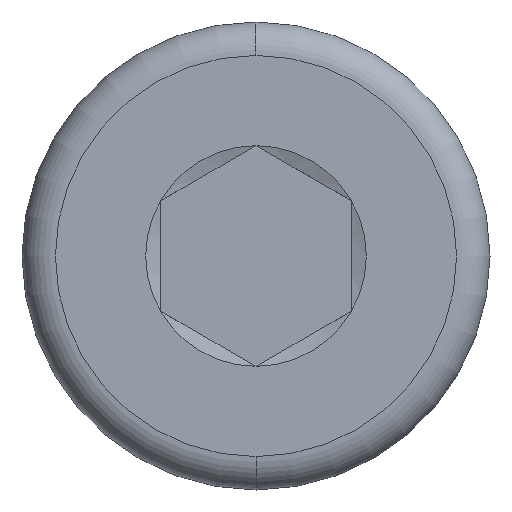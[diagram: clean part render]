
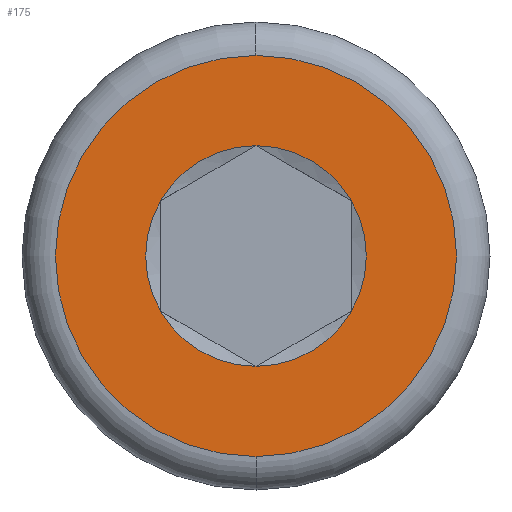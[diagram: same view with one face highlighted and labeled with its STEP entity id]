
A CAD part, left-side view. The second image highlights one B-rep face of the part: STEP entity #175.
In plain terms, the highlighted planar face has unit normal (-1, 0, 0).
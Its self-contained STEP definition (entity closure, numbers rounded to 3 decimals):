
#8 = CIRCLE ( 'NONE', #564, 4.2 ) ;
#41 = VERTEX_POINT ( 'NONE', #344 ) ;
#54 = DIRECTION ( 'NONE',  ( 1., 0., 0. ) ) ;
#57 = DIRECTION ( 'NONE',  ( 0., 0., -1. ) ) ;
#64 = EDGE_LOOP ( 'NONE', ( #447, #118, #153, #398, #265, #668 ) ) ;
#69 = AXIS2_PLACEMENT_3D ( 'NONE', #490, #278, #397 ) ;
#88 = CARTESIAN_POINT ( 'NONE',  ( 0., 0., 2.309 ) ) ;
#95 = AXIS2_PLACEMENT_3D ( 'NONE', #425, #577, #57 ) ;
#99 = CIRCLE ( 'NONE', #187, 2.309 ) ;
#100 = DIRECTION ( 'NONE',  ( 1., 0., 0. ) ) ;
#106 = CARTESIAN_POINT ( 'NONE',  ( 0., -2., -1.155 ) ) ;
#116 = DIRECTION ( 'NONE',  ( 0., 0., -1. ) ) ;
#118 = ORIENTED_EDGE ( 'NONE', *, *, #260, .T. ) ;
#120 = EDGE_CURVE ( 'NONE', #356, #518, #575, .T. ) ;
#121 = AXIS2_PLACEMENT_3D ( 'NONE', #125, #288, #116 ) ;
#125 = CARTESIAN_POINT ( 'NONE',  ( 0., 0., 0. ) ) ;
#148 = AXIS2_PLACEMENT_3D ( 'NONE', #441, #334, #543 ) ;
#153 = ORIENTED_EDGE ( 'NONE', *, *, #388, .T. ) ;
#156 = CIRCLE ( 'NONE', #148, 2.309 ) ;
#159 = EDGE_CURVE ( 'NONE', #391, #572, #358, .T. ) ;
#165 = AXIS2_PLACEMENT_3D ( 'NONE', #272, #338, #588 ) ;
#166 = CIRCLE ( 'NONE', #121, 2.309 ) ;
#169 = CARTESIAN_POINT ( 'NONE',  ( 0., 2., -1.155 ) ) ;
#175 = ADVANCED_FACE ( 'NONE', ( #285, #604 ), #436, .T. ) ;
#187 = AXIS2_PLACEMENT_3D ( 'NONE', #635, #257, #215 ) ;
#215 = DIRECTION ( 'NONE',  ( 0., 0., -1. ) ) ;
#242 = EDGE_CURVE ( 'NONE', #442, #391, #409, .T. ) ;
#248 = VERTEX_POINT ( 'NONE', #591 ) ;
#257 = DIRECTION ( 'NONE',  ( 1., 0., 0. ) ) ;
#260 = EDGE_CURVE ( 'NONE', #518, #287, #156, .T. ) ;
#265 = ORIENTED_EDGE ( 'NONE', *, *, #159, .T. ) ;
#272 = CARTESIAN_POINT ( 'NONE',  ( 0., 0., 0. ) ) ;
#278 = DIRECTION ( 'NONE',  ( -1., 0., 0. ) ) ;
#285 = FACE_BOUND ( 'NONE', #64, .T. ) ;
#287 = VERTEX_POINT ( 'NONE', #478 ) ;
#288 = DIRECTION ( 'NONE',  ( 1., 0., 0. ) ) ;
#307 = CARTESIAN_POINT ( 'NONE',  ( 0., 0., 0. ) ) ;
#334 = DIRECTION ( 'NONE',  ( 1., 0., 0. ) ) ;
#338 = DIRECTION ( 'NONE',  ( 1., 0., 0. ) ) ;
#344 = CARTESIAN_POINT ( 'NONE',  ( 0., 0., 4.2 ) ) ;
#356 = VERTEX_POINT ( 'NONE', #621 ) ;
#358 = CIRCLE ( 'NONE', #552, 2.309 ) ;
#360 = DIRECTION ( 'NONE',  ( 0., 0., -1. ) ) ;
#362 = DIRECTION ( 'NONE',  ( 0., 0., -1. ) ) ;
#363 = EDGE_CURVE ( 'NONE', #248, #41, #8, .T. ) ;
#369 = CARTESIAN_POINT ( 'NONE',  ( 0., 0., 0. ) ) ;
#388 = EDGE_CURVE ( 'NONE', #287, #442, #99, .T. ) ;
#391 = VERTEX_POINT ( 'NONE', #424 ) ;
#397 = DIRECTION ( 'NONE',  ( 0., 0., 1. ) ) ;
#398 = ORIENTED_EDGE ( 'NONE', *, *, #242, .T. ) ;
#403 = EDGE_LOOP ( 'NONE', ( #598, #628 ) ) ;
#409 = CIRCLE ( 'NONE', #165, 2.309 ) ;
#424 = CARTESIAN_POINT ( 'NONE',  ( 0., 0., -2.309 ) ) ;
#425 = CARTESIAN_POINT ( 'NONE',  ( 0., 0., 0. ) ) ;
#436 = PLANE ( 'NONE',  #69 ) ;
#440 = EDGE_CURVE ( 'NONE', #41, #248, #457, .T. ) ;
#441 = CARTESIAN_POINT ( 'NONE',  ( 0., 0., 0. ) ) ;
#442 = VERTEX_POINT ( 'NONE', #106 ) ;
#443 = AXIS2_PLACEMENT_3D ( 'NONE', #307, #54, #360 ) ;
#447 = ORIENTED_EDGE ( 'NONE', *, *, #120, .T. ) ;
#457 = CIRCLE ( 'NONE', #95, 4.2 ) ;
#478 = CARTESIAN_POINT ( 'NONE',  ( 0., -2., 1.155 ) ) ;
#490 = CARTESIAN_POINT ( 'NONE',  ( 0., 0., 0. ) ) ;
#508 = CARTESIAN_POINT ( 'NONE',  ( 0., 0., 0. ) ) ;
#518 = VERTEX_POINT ( 'NONE', #88 ) ;
#539 = DIRECTION ( 'NONE',  ( 0., 0., -1. ) ) ;
#543 = DIRECTION ( 'NONE',  ( 0., 0., -1. ) ) ;
#552 = AXIS2_PLACEMENT_3D ( 'NONE', #508, #647, #539 ) ;
#564 = AXIS2_PLACEMENT_3D ( 'NONE', #369, #100, #362 ) ;
#572 = VERTEX_POINT ( 'NONE', #169 ) ;
#575 = CIRCLE ( 'NONE', #443, 2.309 ) ;
#577 = DIRECTION ( 'NONE',  ( 1., 0., 0. ) ) ;
#588 = DIRECTION ( 'NONE',  ( 0., 0., -1. ) ) ;
#591 = CARTESIAN_POINT ( 'NONE',  ( 0., 0., -4.2 ) ) ;
#598 = ORIENTED_EDGE ( 'NONE', *, *, #363, .F. ) ;
#601 = EDGE_CURVE ( 'NONE', #572, #356, #166, .T. ) ;
#604 = FACE_OUTER_BOUND ( 'NONE', #403, .T. ) ;
#621 = CARTESIAN_POINT ( 'NONE',  ( 0., 2., 1.155 ) ) ;
#628 = ORIENTED_EDGE ( 'NONE', *, *, #440, .F. ) ;
#635 = CARTESIAN_POINT ( 'NONE',  ( 0., 0., 0. ) ) ;
#647 = DIRECTION ( 'NONE',  ( 1., 0., 0. ) ) ;
#668 = ORIENTED_EDGE ( 'NONE', *, *, #601, .T. ) ;
